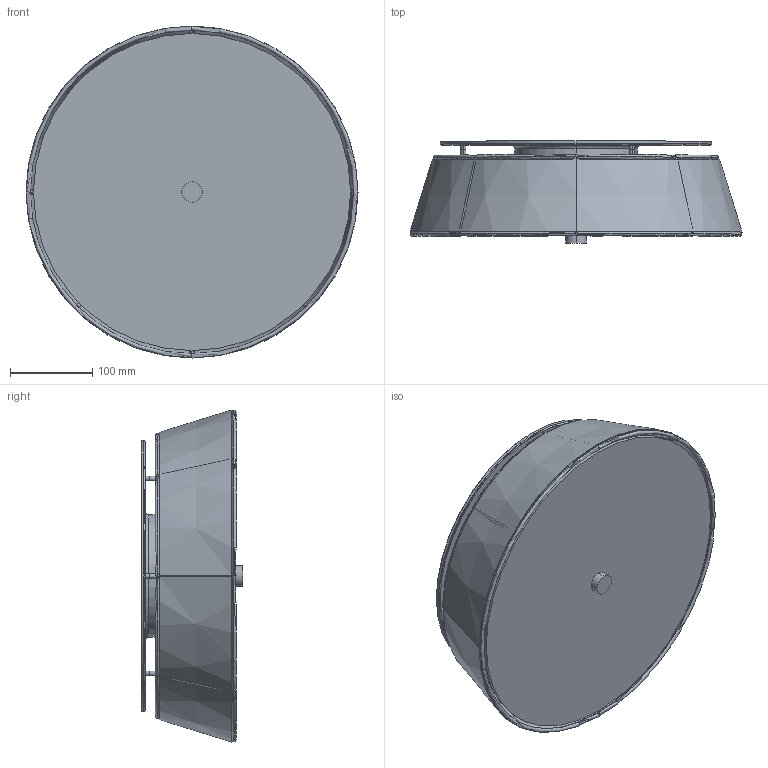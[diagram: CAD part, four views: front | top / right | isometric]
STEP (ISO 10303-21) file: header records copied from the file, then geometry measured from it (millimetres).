
FILE_DESCRIPTION (( 'STEP AP203' ), '1' );
FILE_NAME ('LILITH PL 40_STEP.STEP', '2016-01-08T15:10:53', ( 'admin' ), ( '' ), 'SwSTEP 2.0', 'SolidWorks 2015', '' );
FILE_SCHEMA (( 'CONFIG_CONTROL_DESIGN' ));
Length unit declared in the file: millimetre
Products named in the file (2): LILITH PL 40_STEP
Bounding box: 404.14 x 124 x 404.14 mm (x, y, z)
Volume: 756994.5 mm3; surface area: 756097.8 mm2
Topology: 11 solids, 11 shells, 227 faces, 589 edges, 370 vertices
Faces by surface type: cylinder 88, torus 59, plane 41, cone 38, bspline 1
Entity records: 11529 total; most frequent: CARTESIAN_POINT 5794, DIRECTION 1210, ORIENTED_EDGE 1162, EDGE_CURVE 581, AXIS2_PLACEMENT_3D 540, VERTEX_POINT 370, CIRCLE 312, EDGE_LOOP 267
